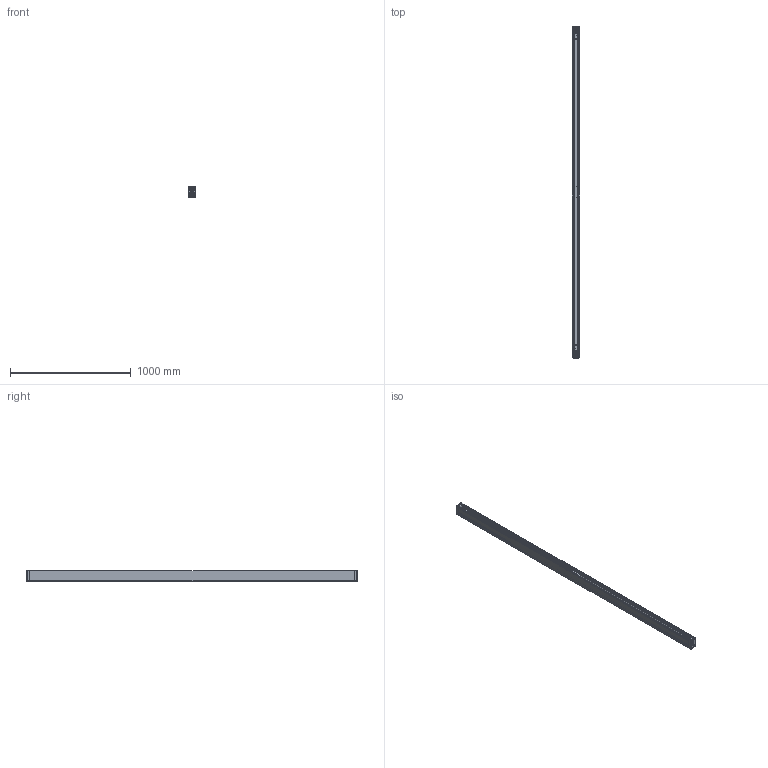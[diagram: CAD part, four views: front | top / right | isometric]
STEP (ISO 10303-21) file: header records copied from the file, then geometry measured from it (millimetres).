
FILE_DESCRIPTION (( 'STEP AP214' ), '1' );
FILE_NAME ('1001941.STEP', '2025-10-06T09:59:47', ( '' ), ( '' ), 'SwSTEP 2.0', 'SolidWorks 2025', '' );
FILE_SCHEMA (( 'AUTOMOTIVE_DESIGN' ));
Length unit declared in the file: millimetre
Products named in the file (1): 1001941
Bounding box: 60 x 2754.79 x 91.25 mm (x, y, z)
Volume: 6669352.4 mm3; surface area: 2642371.2 mm2
Topology: 15 solids, 15 shells, 985 faces, 2698 edges, 1751 vertices
Faces by surface type: plane 555, cylinder 339, torus 68, cone 9, bspline 8, sphere 6
Entity records: 31673 total; most frequent: CARTESIAN_POINT 6079, ORIENTED_EDGE 5372, DIRECTION 5352, EDGE_CURVE 2686, VECTOR 1840, LINE 1840, AXIS2_PLACEMENT_3D 1756, VERTEX_POINT 1745
